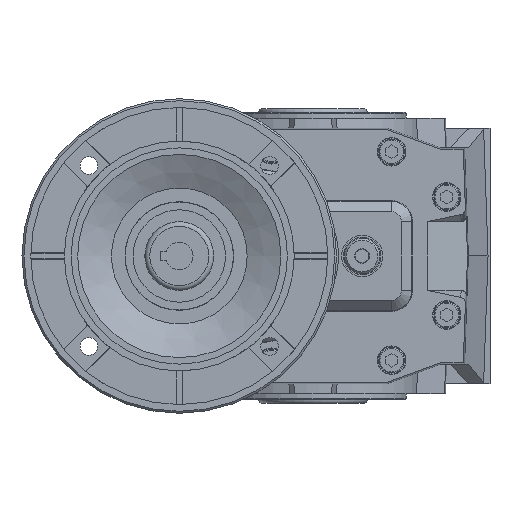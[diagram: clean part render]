
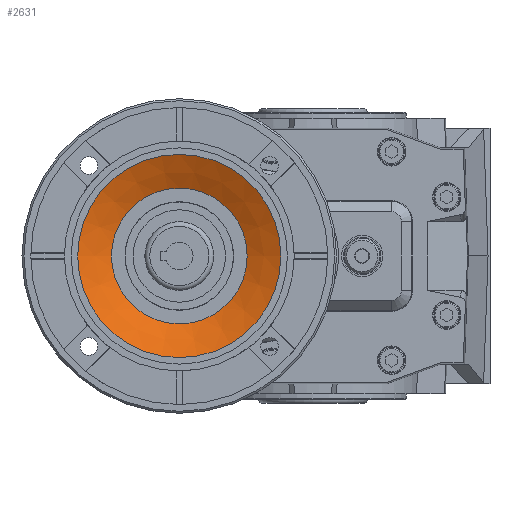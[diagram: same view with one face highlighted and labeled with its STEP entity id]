
A CAD part, left-side view. The second image highlights one B-rep face of the part: STEP entity #2631.
In plain terms, the highlighted conical face has half-angle 65 degrees and reference radius 34.514 mm.
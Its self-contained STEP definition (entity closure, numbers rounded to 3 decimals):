
#2631 = ADVANCED_FACE( '', ( #5795, #5796 ), #5797, .F. );
#5795 = FACE_OUTER_BOUND( '', #11054, .T. );
#5796 = FACE_BOUND( '', #11055, .T. );
#5797 = CONICAL_SURFACE( '', #11056, 34.514, 1.134 );
#11054 = EDGE_LOOP( '', ( #19054 ) );
#11055 = EDGE_LOOP( '', ( #19055 ) );
#11056 = AXIS2_PLACEMENT_3D( '', #19056, #19057, #19058 );
#19054 = ORIENTED_EDGE( '', *, *, #23508, .F. );
#19055 = ORIENTED_EDGE( '', *, *, #22476, .T. );
#19056 = CARTESIAN_POINT( '', ( -251., 68., 0. ) );
#19057 = DIRECTION( '', ( -1., 0., 0. ) );
#19058 = DIRECTION( '', ( 0., 1., 0. ) );
#22476 = EDGE_CURVE( '', #26583, #26583, #26584, .T. );
#23508 = EDGE_CURVE( '', #28186, #28186, #28187, .T. );
#26583 = VERTEX_POINT( '', #32725 );
#26584 = CIRCLE( '', #32726, 34.514 );
#28186 = VERTEX_POINT( '', #36042 );
#28187 = CIRCLE( '', #36043, 51.67 );
#32725 = CARTESIAN_POINT( '', ( -251., 33.486, 0. ) );
#32726 = AXIS2_PLACEMENT_3D( '', #40597, #40598, #40599 );
#36042 = CARTESIAN_POINT( '', ( -259., 119.67, 0. ) );
#36043 = AXIS2_PLACEMENT_3D( '', #41573, #41574, #41575 );
#40597 = CARTESIAN_POINT( '', ( -251., 68., 0. ) );
#40598 = DIRECTION( '', ( 1., 0., 0. ) );
#40599 = DIRECTION( '', ( 0., -1., 0. ) );
#41573 = CARTESIAN_POINT( '', ( -259., 68., 0. ) );
#41574 = DIRECTION( '', ( 1., 0., 0. ) );
#41575 = DIRECTION( '', ( 0., 1., 0. ) );
